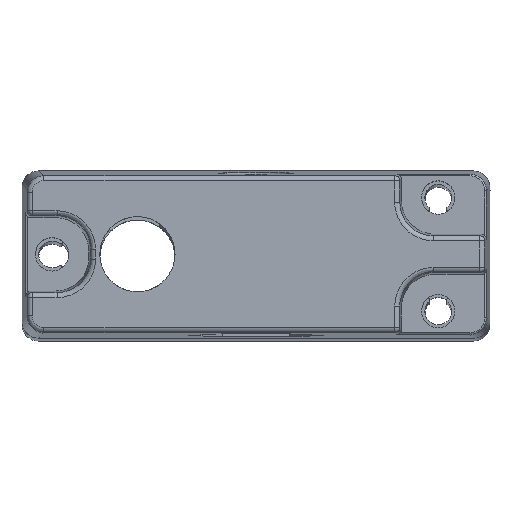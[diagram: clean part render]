
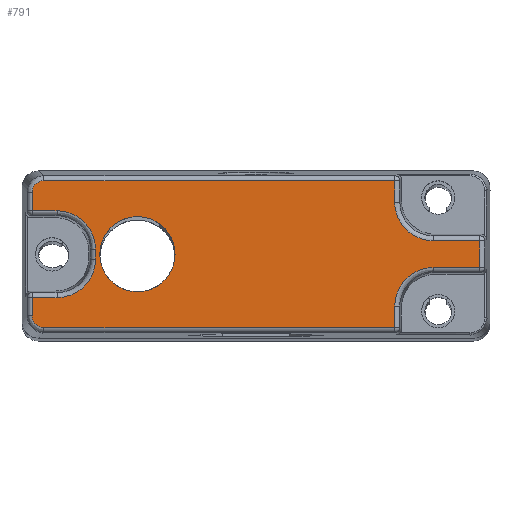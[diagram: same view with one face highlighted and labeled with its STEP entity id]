
A CAD part, top view. The second image highlights one B-rep face of the part: STEP entity #791.
In plain terms, the highlighted planar face has unit normal (0, 0, 1).
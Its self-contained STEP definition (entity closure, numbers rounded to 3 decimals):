
#301=FACE_BOUND('',#1647,.T.);
#302=FACE_BOUND('',#1648,.T.);
#377=CIRCLE('',#6733,2.25);
#639=ELLIPSE('',#6734,2.302,2.3);
#640=ELLIPSE('',#6735,0.7,0.7);
#641=ELLIPSE('',#6736,2.302,2.3);
#642=ELLIPSE('',#6737,2.302,2.3);
#643=ELLIPSE('',#6738,0.7,0.7);
#644=ELLIPSE('',#6739,2.302,2.3);
#791=ADVANCED_FACE('',(#301,#302),#1085,.T.);
#1085=PLANE('',#6740);
#1647=EDGE_LOOP('',(#2447));
#1648=EDGE_LOOP('',(#2448,#2449,#2450,#2451,#2452,#2453,#2454,#2455,#2456,
#2457,#2458,#2459,#2460,#2461,#2462,#2463,#2464,#2465));
#2447=ORIENTED_EDGE('',*,*,#4719,.F.);
#2448=ORIENTED_EDGE('',*,*,#4720,.T.);
#2449=ORIENTED_EDGE('',*,*,#4721,.T.);
#2450=ORIENTED_EDGE('',*,*,#4722,.T.);
#2451=ORIENTED_EDGE('',*,*,#4723,.T.);
#2452=ORIENTED_EDGE('',*,*,#4724,.T.);
#2453=ORIENTED_EDGE('',*,*,#4725,.T.);
#2454=ORIENTED_EDGE('',*,*,#4726,.T.);
#2455=ORIENTED_EDGE('',*,*,#4727,.T.);
#2456=ORIENTED_EDGE('',*,*,#4728,.T.);
#2457=ORIENTED_EDGE('',*,*,#4729,.T.);
#2458=ORIENTED_EDGE('',*,*,#4730,.T.);
#2459=ORIENTED_EDGE('',*,*,#4731,.T.);
#2460=ORIENTED_EDGE('',*,*,#4732,.T.);
#2461=ORIENTED_EDGE('',*,*,#4733,.T.);
#2462=ORIENTED_EDGE('',*,*,#4734,.T.);
#2463=ORIENTED_EDGE('',*,*,#4735,.T.);
#2464=ORIENTED_EDGE('',*,*,#4736,.T.);
#2465=ORIENTED_EDGE('',*,*,#4737,.T.);
#4010=VERTEX_POINT('',#9965);
#4011=VERTEX_POINT('',#9967);
#4012=VERTEX_POINT('',#9968);
#4013=VERTEX_POINT('',#9970);
#4014=VERTEX_POINT('',#9972);
#4015=VERTEX_POINT('',#9974);
#4016=VERTEX_POINT('',#9976);
#4017=VERTEX_POINT('',#9978);
#4018=VERTEX_POINT('',#9980);
#4019=VERTEX_POINT('',#9982);
#4020=VERTEX_POINT('',#9984);
#4021=VERTEX_POINT('',#9986);
#4022=VERTEX_POINT('',#9988);
#4023=VERTEX_POINT('',#9990);
#4024=VERTEX_POINT('',#9992);
#4025=VERTEX_POINT('',#9994);
#4026=VERTEX_POINT('',#9996);
#4027=VERTEX_POINT('',#9998);
#4028=VERTEX_POINT('',#10000);
#4719=EDGE_CURVE('',#4010,#4010,#377,.T.);
#4720=EDGE_CURVE('',#4011,#4012,#5554,.T.);
#4721=EDGE_CURVE('',#4012,#4013,#639,.T.);
#4722=EDGE_CURVE('',#4013,#4014,#5555,.T.);
#4723=EDGE_CURVE('',#4014,#4015,#5556,.T.);
#4724=EDGE_CURVE('',#4015,#4016,#640,.T.);
#4725=EDGE_CURVE('',#4016,#4017,#5557,.T.);
#4726=EDGE_CURVE('',#4017,#4018,#5558,.T.);
#4727=EDGE_CURVE('',#4018,#4019,#641,.T.);
#4728=EDGE_CURVE('',#4019,#4020,#5559,.T.);
#4729=EDGE_CURVE('',#4020,#4021,#5560,.T.);
#4730=EDGE_CURVE('',#4021,#4022,#5561,.T.);
#4731=EDGE_CURVE('',#4022,#4023,#642,.T.);
#4732=EDGE_CURVE('',#4023,#4024,#5562,.T.);
#4733=EDGE_CURVE('',#4024,#4025,#5563,.T.);
#4734=EDGE_CURVE('',#4025,#4026,#643,.T.);
#4735=EDGE_CURVE('',#4026,#4027,#5564,.T.);
#4736=EDGE_CURVE('',#4027,#4028,#5565,.T.);
#4737=EDGE_CURVE('',#4028,#4011,#644,.T.);
#5554=LINE('',#9966,#6127);
#5555=LINE('',#9971,#6128);
#5556=LINE('',#9973,#6129);
#5557=LINE('',#9977,#6130);
#5558=LINE('',#9979,#6131);
#5559=LINE('',#9983,#6132);
#5560=LINE('',#9985,#6133);
#5561=LINE('',#9987,#6134);
#5562=LINE('',#9991,#6135);
#5563=LINE('',#9993,#6136);
#5564=LINE('',#9997,#6137);
#5565=LINE('',#9999,#6138);
#6127=VECTOR('',#7818,1.);
#6128=VECTOR('',#7821,1.);
#6129=VECTOR('',#7822,1.);
#6130=VECTOR('',#7825,1.);
#6131=VECTOR('',#7826,1.);
#6132=VECTOR('',#7829,1.);
#6133=VECTOR('',#7830,1.);
#6134=VECTOR('',#7831,1.);
#6135=VECTOR('',#7834,1.);
#6136=VECTOR('',#7835,1.);
#6137=VECTOR('',#7838,1.);
#6138=VECTOR('',#7839,1.);
#6733=AXIS2_PLACEMENT_3D('',#9964,#7816,#7817);
#6734=AXIS2_PLACEMENT_3D('',#9969,#7819,#7820);
#6735=AXIS2_PLACEMENT_3D('',#9975,#7823,#7824);
#6736=AXIS2_PLACEMENT_3D('',#9981,#7827,#7828);
#6737=AXIS2_PLACEMENT_3D('',#9989,#7832,#7833);
#6738=AXIS2_PLACEMENT_3D('',#9995,#7836,#7837);
#6739=AXIS2_PLACEMENT_3D('',#10001,#7840,#7841);
#6740=AXIS2_PLACEMENT_3D('',#10002,#7842,#7843);
#7816=DIRECTION('',(0.,0.,1.));
#7817=DIRECTION('',(1.,0.,0.));
#7818=DIRECTION('',(0.,-1.,0.));
#7819=DIRECTION('',(0.,0.,-1.));
#7820=DIRECTION('',(-0.707,0.707,0.));
#7821=DIRECTION('',(-1.,0.,0.));
#7822=DIRECTION('',(0.,-1.,0.));
#7823=DIRECTION('',(0.,0.,1.));
#7824=DIRECTION('',(-0.707,-0.707,0.));
#7825=DIRECTION('',(1.,0.,0.));
#7826=DIRECTION('',(0.,1.,0.));
#7827=DIRECTION('',(0.,0.,-1.));
#7828=DIRECTION('',(0.707,-0.707,0.));
#7829=DIRECTION('',(1.,0.,0.));
#7830=DIRECTION('',(0.,1.,0.));
#7831=DIRECTION('',(-1.,0.,0.));
#7832=DIRECTION('',(0.,0.,-1.));
#7833=DIRECTION('',(0.707,0.707,0.));
#7834=DIRECTION('',(0.,1.,0.));
#7835=DIRECTION('',(-1.,0.,0.));
#7836=DIRECTION('',(0.,0.,1.));
#7837=DIRECTION('',(-0.707,0.707,0.));
#7838=DIRECTION('',(0.,-1.,0.));
#7839=DIRECTION('',(1.,0.,0.));
#7840=DIRECTION('',(0.,0.,-1.));
#7841=DIRECTION('',(-0.707,-0.707,0.));
#7842=DIRECTION('',(0.,0.,1.));
#7843=DIRECTION('',(1.,0.,0.));
#9964=CARTESIAN_POINT('',(55.469,7.321,112.));
#9965=CARTESIAN_POINT('',(57.719,7.321,112.));
#9966=CARTESIAN_POINT('',(52.961,7.016,112.));
#9967=CARTESIAN_POINT('',(52.961,7.619,112.));
#9968=CARTESIAN_POINT('',(52.961,7.024,112.));
#9969=CARTESIAN_POINT('',(50.66,7.025,112.));
#9970=CARTESIAN_POINT('',(50.662,4.725,112.));
#9971=CARTESIAN_POINT('',(48.878,4.725,112.));
#9972=CARTESIAN_POINT('',(49.17,4.725,112.));
#9973=CARTESIAN_POINT('',(49.17,3.635,112.));
#9974=CARTESIAN_POINT('',(49.17,3.628,112.));
#9975=CARTESIAN_POINT('',(49.871,3.628,112.));
#9976=CARTESIAN_POINT('',(49.87,2.928,112.));
#9977=CARTESIAN_POINT('',(71.159,2.928,112.));
#9978=CARTESIAN_POINT('',(70.867,2.928,112.));
#9979=CARTESIAN_POINT('',(70.867,4.227,112.));
#9980=CARTESIAN_POINT('',(70.867,4.219,112.));
#9981=CARTESIAN_POINT('',(73.168,4.218,112.));
#9982=CARTESIAN_POINT('',(73.166,6.518,112.));
#9983=CARTESIAN_POINT('',(76.248,6.518,112.));
#9984=CARTESIAN_POINT('',(75.956,6.518,112.));
#9985=CARTESIAN_POINT('',(75.956,8.417,112.));
#9986=CARTESIAN_POINT('',(75.956,8.125,112.));
#9987=CARTESIAN_POINT('',(73.159,8.125,112.));
#9988=CARTESIAN_POINT('',(73.166,8.125,112.));
#9989=CARTESIAN_POINT('',(73.168,10.425,112.));
#9990=CARTESIAN_POINT('',(70.867,10.424,112.));
#9991=CARTESIAN_POINT('',(70.867,12.007,112.));
#9992=CARTESIAN_POINT('',(70.867,11.715,112.));
#9993=CARTESIAN_POINT('',(49.878,11.715,112.));
#9994=CARTESIAN_POINT('',(49.87,11.715,112.));
#9995=CARTESIAN_POINT('',(49.871,11.015,112.));
#9996=CARTESIAN_POINT('',(49.17,11.015,112.));
#9997=CARTESIAN_POINT('',(49.17,9.626,112.));
#9998=CARTESIAN_POINT('',(49.17,9.918,112.));
#9999=CARTESIAN_POINT('',(50.669,9.918,112.));
#10000=CARTESIAN_POINT('',(50.662,9.918,112.));
#10001=CARTESIAN_POINT('',(50.66,7.618,112.));
#10002=CARTESIAN_POINT('',(49.564,3.321,112.));
